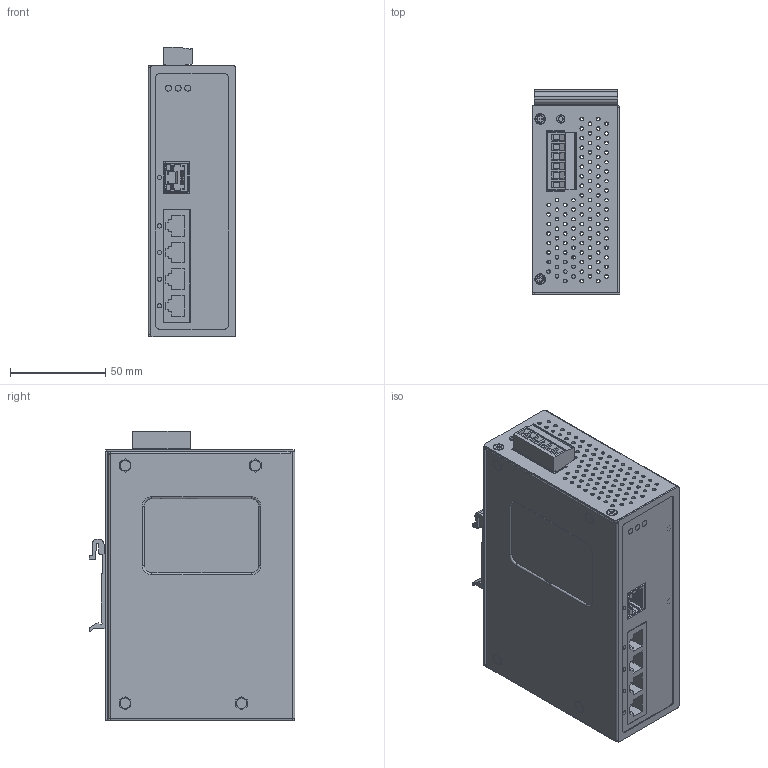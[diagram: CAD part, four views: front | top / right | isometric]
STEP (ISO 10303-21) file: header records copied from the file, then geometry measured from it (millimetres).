
FILE_DESCRIPTION(/* description */ ('STEP AP242','CAx-IF Rec.Pracs.---Representation and Presentation of Product Manufacturing Information (PMI)---4.0---2014-10-13','CAx-IF Rec.Pracs.---3D Tessellated Geometry---0.4---2014-09-14','2;1'),/* implementation_level */ '2;1');
FILE_NAME(/* name */ '67f44a871d68617fa7fd40c7',/* time_stamp */ '2025-04-07T21:58:34Z',/* author */ (''),/* organization */ (''),/* preprocessor_version */ 'ST-DEVELOPER v20',/* originating_system */ 'ONSHAPE BY PTC INC, 1.196',/* authorisation */ ' ');
FILE_SCHEMA (('AP242_MANAGED_MODEL_BASED_3D_ENGINEERING_MIM_LF { 1 0 10303 442 1 1 4 }'));
Products named in the file (64): ETH-5P-1 - Industrial 5 Port PoE+ Switch; PRT0034_9; PRT0003; PRT0034_7; PRT0035_4; PRT0033; PRT0022; PRT0001; PRT0020; PRT0034_8; PRT0024_4; PRT0024; PRT0009; PRT0024_1; PRT0034_3; PRT0021_1; PRT0032; PRT0034_4; PRT0032_2; PRT0032_3; SCREW-M3-L4_3_1_2; PRT0027; PRT0034_2; PRT0012; PRT0034_1; PRT0014; PRT0034_6; SCREW-M3-L4_3_1_1; PRT0023; PRT0035_2; PRT0021; PRT0030; PRT0028; PRT0024_5; PRT0035_1; PRT0005; PRT0032_1; PRT0035_6; PRT0016; PRT0002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
Assembly tree (63 placements, depth 2):
  ETH-5P-1 - Industrial 5 Port PoE+ Switch
    PRT0034_9
    PRT0003
    PRT0034_7
    PRT0035_4
    PRT0033
    PRT0022
    PRT0001
    PRT0020
    PRT0034_8
    PRT0024_4
    PRT0024
    PRT0009
    PRT0024_1
    PRT0034_3
    PRT0021_1
    PRT0032
    PRT0034_4
    PRT0032_2
    PRT0032_3
    SCREW-M3-L4_3_1_2
    PRT0027
    PRT0034_2
    PRT0012
    PRT0034_1
    PRT0014
    PRT0034_6
    SCREW-M3-L4_3_1_1
    PRT0023
    PRT0035_2
    PRT0021
    PRT0030
    PRT0028
    PRT0024_5
    PRT0035_1
    PRT0005
    PRT0032_1
    PRT0035_6
    PRT0016
    PRT0002
    PRT0017
    PRT0007
    PRT0029
    PRT0035_5
    PRT0010
    PRT0011
    PRT0015
    PRT0036
    PRT0004
    PRT0035_3
    PRT0034
    PRT0013
    PRT0024_2
    PRT0024_3
    PRT0035
    PRT0034_5
    PRT0008
    SCREW-M3-L4_3_1
    PRT0018
    PRT0006
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Bounding box: 46 x 107.8 x 151.84 mm (x, y, z)
Volume: 77930.6 mm3; surface area: 132346.2 mm2
Topology: 63 solids, 63 shells, 2973 faces, 8121 edges, 5361 vertices
Faces by surface type: plane 2098, cylinder 711, cone 122, bspline 24, torus 15, sphere 3
Full cylindrical faces by diameter (mm): 0.609 x1, 0.9 x6, 1.4 x6, 1.9 x245, 2.2 x5, 2.4 x10, 2.5 x21, 2.8 x5, 3 x7, 3.15 x2, 3.2 x5, 3.4 x2, 3.5 x7, 3.783 x6, 4 x11, 4.2 x10, 4.3 x10, 4.5 x7, 5 x10, 5.4 x14, 5.5 x4
Entity records: 90770 total; most frequent: CARTESIAN_POINT 15965, DIRECTION 14769, ORIENTED_EDGE 14464, EDGE_CURVE 7232, LINE 5577, VECTOR 5577, VERTEX_POINT 4988, AXIS2_PLACEMENT_3D 4596
